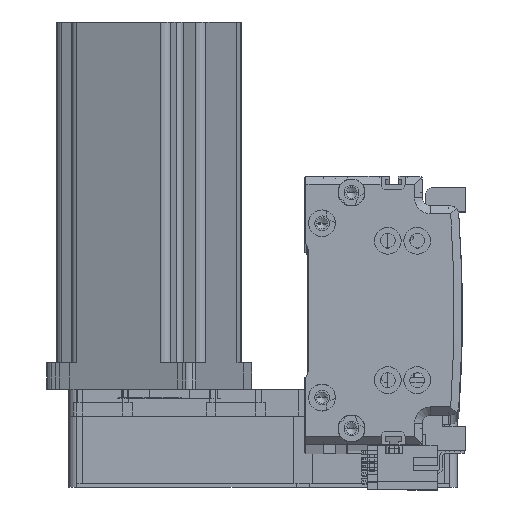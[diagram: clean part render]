
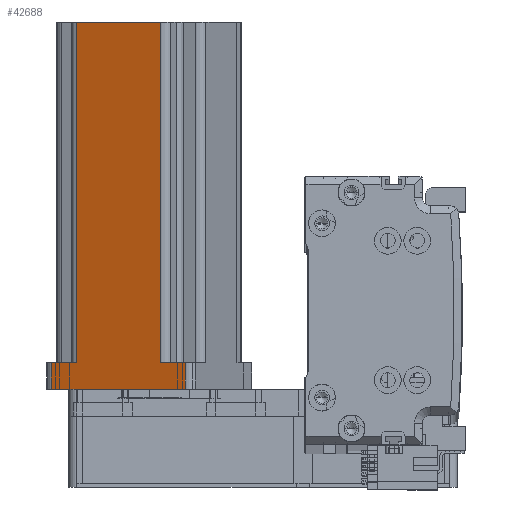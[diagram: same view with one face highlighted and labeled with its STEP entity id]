
A CAD part, top view. The second image highlights one B-rep face of the part: STEP entity #42688.
In plain terms, the highlighted planar face has unit normal (-0.383, 0, 0.924) as drawn and (1, 0, 0) by its records, which use the part's own axes.
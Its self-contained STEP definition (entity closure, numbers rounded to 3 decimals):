
#946 = ORIENTED_EDGE ( 'NONE', *, *, #37174, .F. ) ;
#1126 = CARTESIAN_POINT ( 'NONE',  ( 30., -30., 10. ) ) ;
#2609 = VERTEX_POINT ( 'NONE', #14596 ) ;
#3233 = CARTESIAN_POINT ( 'NONE',  ( 30., 27., 137. ) ) ;
#3453 = DIRECTION ( 'NONE',  ( 0., 0., 1. ) ) ;
#3625 = LINE ( 'NONE', #1126, #17067 ) ;
#4346 = DIRECTION ( 'NONE',  ( 0., 1., 0. ) ) ;
#5308 = CARTESIAN_POINT ( 'NONE',  ( 30., 17., 137. ) ) ;
#8279 = LINE ( 'NONE', #34909, #33672 ) ;
#8565 = VECTOR ( 'NONE', #32482, 1000. ) ;
#9396 = ORIENTED_EDGE ( 'NONE', *, *, #12806, .T. ) ;
#10585 = VERTEX_POINT ( 'NONE', #52283 ) ;
#11724 = CARTESIAN_POINT ( 'NONE',  ( 30., -17., 137. ) ) ;
#11914 = VECTOR ( 'NONE', #60661, 1000. ) ;
#12806 = EDGE_CURVE ( 'NONE', #16306, #18068, #36070, .T. ) ;
#13226 = CARTESIAN_POINT ( 'NONE',  ( 30., -30., 137. ) ) ;
#14596 = CARTESIAN_POINT ( 'NONE',  ( 30., 17., 10. ) ) ;
#16306 = VERTEX_POINT ( 'NONE', #26111 ) ;
#16424 = LINE ( 'NONE', #30128, #55298 ) ;
#17067 = VECTOR ( 'NONE', #31524, 1000. ) ;
#17739 = EDGE_LOOP ( 'NONE', ( #946, #31012, #22866, #36315, #9396, #17790, #42886, #44187 ) ) ;
#17790 = ORIENTED_EDGE ( 'NONE', *, *, #31724, .T. ) ;
#18068 = VERTEX_POINT ( 'NONE', #49120 ) ;
#20355 = DIRECTION ( 'NONE',  ( -1., 0., 0. ) ) ;
#22037 = EDGE_CURVE ( 'NONE', #31141, #42042, #3625, .T. ) ;
#22812 = VERTEX_POINT ( 'NONE', #26736 ) ;
#22866 = ORIENTED_EDGE ( 'NONE', *, *, #22037, .T. ) ;
#26111 = CARTESIAN_POINT ( 'NONE',  ( 30., -27., 0. ) ) ;
#26736 = CARTESIAN_POINT ( 'NONE',  ( 30., 27., 10. ) ) ;
#27927 = EDGE_CURVE ( 'NONE', #2609, #22812, #16424, .T. ) ;
#28273 = DIRECTION ( 'NONE',  ( 0., 1., 0. ) ) ;
#29796 = FACE_OUTER_BOUND ( 'NONE', #17739, .T. ) ;
#30128 = CARTESIAN_POINT ( 'NONE',  ( 30., 30., 10. ) ) ;
#30346 = PLANE ( 'NONE',  #45607 ) ;
#31012 = ORIENTED_EDGE ( 'NONE', *, *, #41898, .T. ) ;
#31024 = DIRECTION ( 'NONE',  ( 0., 1., 0. ) ) ;
#31141 = VERTEX_POINT ( 'NONE', #58084 ) ;
#31524 = DIRECTION ( 'NONE',  ( 0., -1., 0. ) ) ;
#31724 = EDGE_CURVE ( 'NONE', #18068, #22812, #57032, .T. ) ;
#32008 = EDGE_CURVE ( 'NONE', #42042, #16306, #62468, .T. ) ;
#32482 = DIRECTION ( 'NONE',  ( 0., 0., -1. ) ) ;
#33672 = VECTOR ( 'NONE', #40031, 1000. ) ;
#34909 = CARTESIAN_POINT ( 'NONE',  ( 30., -17., 10. ) ) ;
#36070 = LINE ( 'NONE', #39822, #49497 ) ;
#36315 = ORIENTED_EDGE ( 'NONE', *, *, #32008, .T. ) ;
#37023 = VECTOR ( 'NONE', #28273, 1000. ) ;
#37174 = EDGE_CURVE ( 'NONE', #42859, #10585, #52059, .T. ) ;
#39822 = CARTESIAN_POINT ( 'NONE',  ( 30., -30., 0. ) ) ;
#40031 = DIRECTION ( 'NONE',  ( 0., 0., -1. ) ) ;
#41898 = EDGE_CURVE ( 'NONE', #42859, #31141, #8279, .T. ) ;
#42042 = VERTEX_POINT ( 'NONE', #49254 ) ;
#42688 = ADVANCED_FACE ( 'NONE', ( #29796 ), #30346, .F. ) ;
#42859 = VERTEX_POINT ( 'NONE', #11724 ) ;
#42886 = ORIENTED_EDGE ( 'NONE', *, *, #27927, .F. ) ;
#43553 = VECTOR ( 'NONE', #3453, 1000. ) ;
#44187 = ORIENTED_EDGE ( 'NONE', *, *, #64681, .T. ) ;
#45607 = AXIS2_PLACEMENT_3D ( 'NONE', #50756, #20355, #55832 ) ;
#49120 = CARTESIAN_POINT ( 'NONE',  ( 30., 27., 0. ) ) ;
#49254 = CARTESIAN_POINT ( 'NONE',  ( 30., -27., 10. ) ) ;
#49497 = VECTOR ( 'NONE', #4346, 1000. ) ;
#50756 = CARTESIAN_POINT ( 'NONE',  ( 30., -30., 137. ) ) ;
#50777 = LINE ( 'NONE', #5308, #11914 ) ;
#52059 = LINE ( 'NONE', #13226, #37023 ) ;
#52283 = CARTESIAN_POINT ( 'NONE',  ( 30., 17., 137. ) ) ;
#52620 = CARTESIAN_POINT ( 'NONE',  ( 30., -27., 137. ) ) ;
#55298 = VECTOR ( 'NONE', #31024, 1000. ) ;
#55832 = DIRECTION ( 'NONE',  ( 0., 0., 1. ) ) ;
#57032 = LINE ( 'NONE', #3233, #43553 ) ;
#58084 = CARTESIAN_POINT ( 'NONE',  ( 30., -17., 10. ) ) ;
#60661 = DIRECTION ( 'NONE',  ( 0., 0., 1. ) ) ;
#62468 = LINE ( 'NONE', #52620, #8565 ) ;
#64681 = EDGE_CURVE ( 'NONE', #2609, #10585, #50777, .T. ) ;
